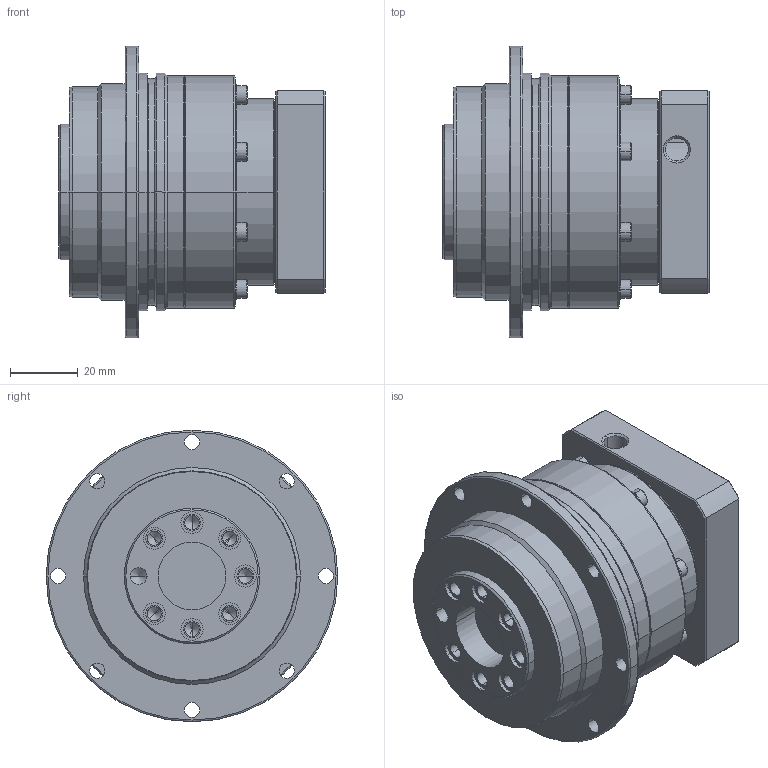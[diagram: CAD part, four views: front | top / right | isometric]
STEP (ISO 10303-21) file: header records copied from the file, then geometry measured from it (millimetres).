
FILE_DESCRIPTION((''),'2;1');
FILE_NAME('AD0641-P4120401_ASM','2006-05-12T',('D00080'),(''),'PRO/ENGINEER BY PARAMETRIC TECHNOLOGY CORPORATION, 2001280','PRO/ENGINEER BY PARAMETRIC TECHNOLOGY CORPORATION, 2001280','');
FILE_SCHEMA(('CONFIG_CONTROL_DESIGN'));
Length unit declared in the file: millimetre
Products named in the file (7): AD064-1; PK020001; 233100001; 220110416; COVER_SET1-AD-2_ASM; P4120401; AD0641-P4120401_ASM
Assembly tree (20 placements, depth 3):
  AD0641-P4120401_ASM
    AD064-1
    COVER_SET1-AD-2_ASM
      PK020001
      233100001  x8
      220110416  x8
    P4120401
Bounding box: 78.5 x 86 x 86 mm (x, y, z)
Volume: 238232.7 mm3; surface area: 57531 mm2
Topology: 20 solids, 46 shells, 766 faces, 1743 edges, 1052 vertices
Faces by surface type: cylinder 337, plane 221, cone 158, torus 50
Entity records: 14946 total; most frequent: DIRECTION 2863, CARTESIAN_POINT 2719, ORIENTED_EDGE 2186, AXIS2_PLACEMENT_3D 1217, EDGE_CURVE 1145, VERTEX_POINT 730, CIRCLE 667, EDGE_LOOP 627
